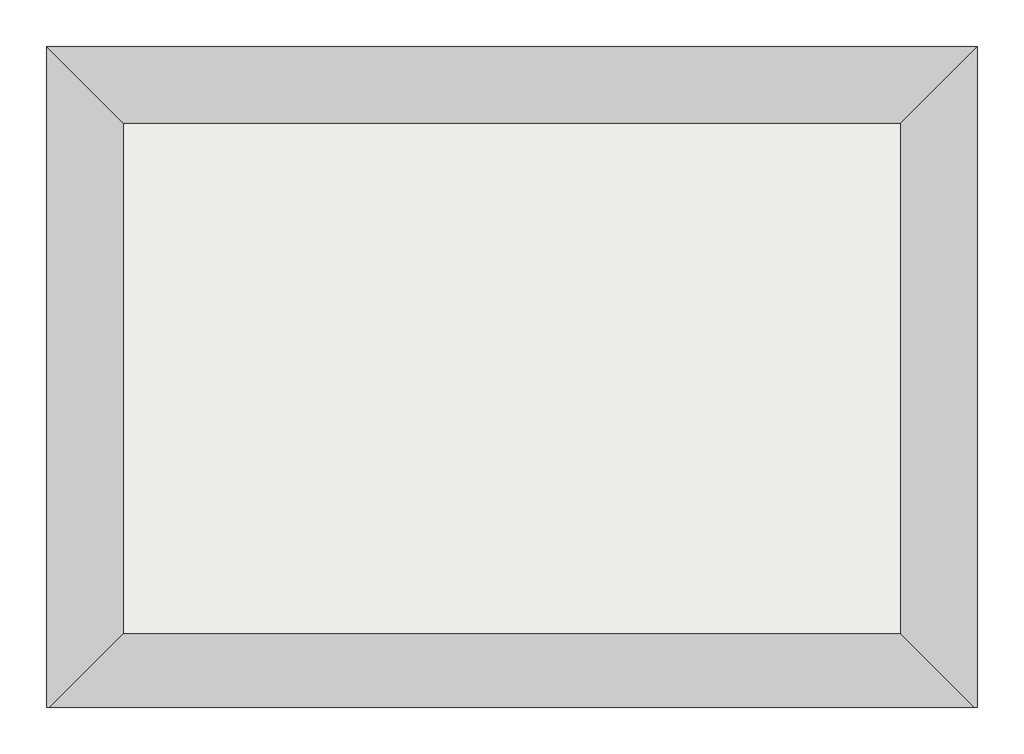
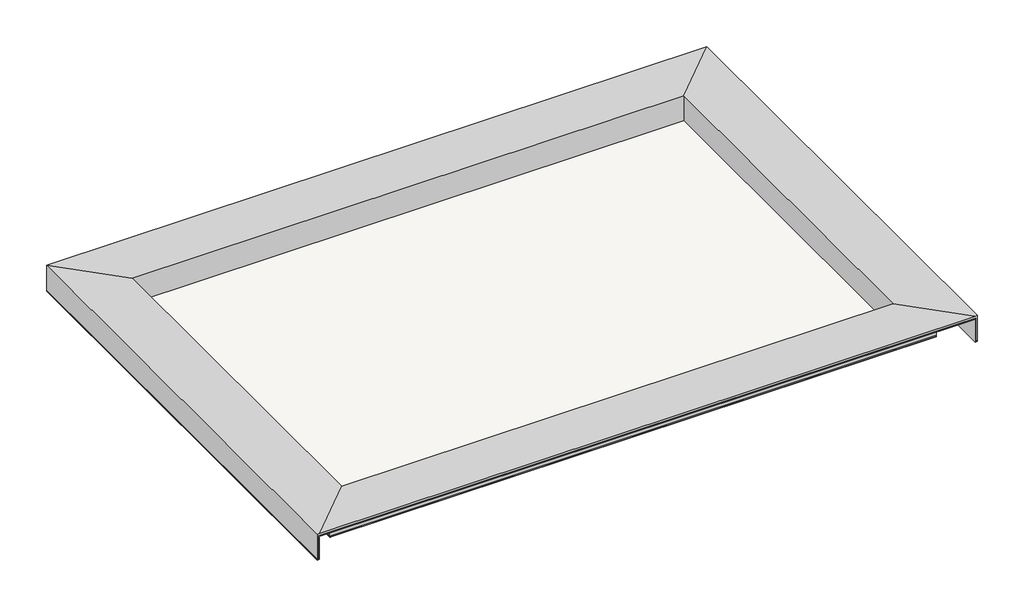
# One storey, incomplete: 2 proxies, 2 slabs.
"""IFC4 building model written with IfcOpenShell, lengths in millimetres."""

from ifc_helpers import new_model, si_unit, frame, origin, place, context, project, spatial, polyline, outline, extrude, faceted_brep, element, save

model = new_model("IFC4")

# Units and contexts
model_context = context("Model", 3, world=origin())
ifc_project = project(units=[si_unit("LENGTHUNIT", "METRE", prefix="MILLI")], contexts=[model_context])

# Site, building, storey
site = spatial("IfcSite", under=ifc_project)
building = spatial("IfcBuilding", under=site)
storey = spatial("IfcBuildingStorey", under=building, Name="20F(A)+2.8", Elevation=2800.0)

# Proxies
placement = place(None, origin())
element("IfcBuildingElementProxy", 1, Name="天花跌级（细木工板）", ObjectType="天花跌级（细木工板）", at=placement, inside=storey, context=model_context, shape_type="Brep", body=[
    faceted_brep([(12101.0015272, 1200.9923684, 3011.0), (12101.0015272, 1200.9923684, 2811.0), (12101.0015272, -2659.8975825, 2811.0), (12101.0015272, -2659.8975825, 3011.0), (12110.0015272, 1209.9923684, 2811.0), (12110.0015272, -2659.8975825, 2811.0), (12110.0015272, 1209.9923684, 3029.0), (12110.0015272, -2659.8975825, 3029.0), (11661.0015272, 760.9923684, 3029.0), (11661.0015272, -2231.00763, 3029.0), (12089.8914797, -2659.8975825, 3029.0), (11661.0015272, -2231.00763, 2811.0), (11661.0015272, 760.9923684, 2811.0), (11879.0015272, -2449.00763, 2811.0), (11879.0015272, 978.9923684, 2811.0), (11879.0015272, -2449.00763, 2860.0), (11879.0015272, 978.9923684, 2860.0), (11861.0015272, -2431.00763, 2860.0), (11861.0015272, 960.9923684, 2860.0), (11861.0015272, -2431.00763, 2829.0), (11861.0015272, 960.9923684, 2829.0), (11679.0015272, -2249.00763, 2829.0), (11679.0015272, 778.9923684, 2829.0), (11679.0015272, -2249.00763, 3011.0), (11679.0015272, 778.9923684, 3011.0), (12089.8914797, -2659.8975825, 3011.0), (7109.0000014, -2231.00763, 3029.0), (6680.1100489, -2659.8975825, 3029.0), (7109.0000014, -2231.00763, 2811.0), (6891.0000014, -2449.00763, 2811.0), (6891.0000014, -2449.00763, 2860.0), (6909.0000014, -2431.00763, 2860.0), (6909.0000014, -2431.00763, 2829.0), (7091.0000014, -2249.00763, 2829.0), (7091.0000014, -2249.00763, 3011.0), (6680.1100489, -2659.8975825, 3011.0), (6669.0000014, 1200.9923684, 3011.0), (6669.0000014, 1200.9923684, 2811.0), (6660.0000014, 1209.9923684, 2811.0), (6660.0000014, 1209.9923684, 3029.0), (7109.0000014, 760.9923684, 3029.0), (7109.0000014, 760.9923684, 2811.0), (6891.0000014, 978.9923684, 2811.0), (6891.0000014, 978.9923684, 2860.0), (6909.0000014, 960.9923684, 2860.0), (6909.0000014, 960.9923684, 2829.0), (7091.0000014, 778.9923684, 2829.0), (7091.0000014, 778.9923684, 3011.0), (6669.0000014, -2659.8975825, 3011.0), (6669.0000014, -2659.8975825, 2811.0), (6660.0000014, -2659.8975825, 2811.0), (6660.0000014, -2659.8975825, 3029.0)], [[[0, 1, 2, 3]], [[1, 4, 5, 2]], [[4, 6, 7, 5]], [[8, 9, 10, 7, 6]], [[11, 9, 8, 12]], [[13, 11, 12, 14]], [[15, 13, 14, 16]], [[17, 15, 16, 18]], [[19, 17, 18, 20]], [[21, 19, 20, 22]], [[23, 21, 22, 24]], [[23, 24, 0, 3, 25]], [[9, 26, 27, 10]], [[9, 11, 28, 26]], [[11, 13, 29, 28]], [[13, 15, 30, 29]], [[15, 17, 31, 30]], [[17, 19, 32, 31]], [[19, 21, 33, 32]], [[21, 23, 34, 33]], [[34, 23, 25, 35]], [[1, 0, 36, 37]], [[4, 1, 37, 38]], [[6, 4, 38, 39]], [[8, 6, 39, 40]], [[12, 8, 40, 41]], [[14, 12, 41, 42]], [[16, 14, 42, 43]], [[18, 16, 43, 44]], [[20, 18, 44, 45]], [[22, 20, 45, 46]], [[24, 22, 46, 47]], [[0, 24, 47, 36]], [[37, 36, 48, 49]], [[38, 37, 49, 50]], [[39, 38, 50, 51]], [[40, 39, 51, 27, 26]], [[26, 28, 41, 40]], [[28, 29, 42, 41]], [[29, 30, 43, 42]], [[30, 31, 44, 43]], [[31, 32, 45, 44]], [[32, 33, 46, 45]], [[33, 34, 47, 46]], [[36, 47, 34, 35, 48]], [[3, 2, 5, 7, 10, 27, 51, 50, 49, 48, 35, 25]]]),
])
element("IfcBuildingElementProxy", 2, Name="天花跌级（石膏板）", ObjectType="天花跌级（石膏板）", at=placement, inside=storey, context=model_context, shape_type="Brep", body=[
    faceted_brep([(12092.0015272, 1191.9923684, 3002.0), (12092.0015272, 1191.9923684, 2802.0), (12092.0015272, -2659.8975825, 2802.0), (12092.0015272, -2659.8975825, 3002.0), (12110.0015272, 1209.9923684, 2802.0), (12110.0015272, -2659.8975825, 2802.0), (12110.0015272, 1209.9923684, 2811.0), (12110.0015272, -2659.8975825, 2811.0), (12101.0015272, 1200.9923684, 2811.0), (12101.0015272, -2659.8975825, 2811.0), (12101.0015272, 1200.9923684, 3011.0), (12101.0015272, -2659.8975825, 3011.0), (11679.0015272, 778.9923684, 3011.0), (11679.0015272, -2249.00763, 3011.0), (12089.8914797, -2659.8975825, 3011.0), (11679.0015272, -2249.00763, 2829.0), (11679.0015272, 778.9923684, 2829.0), (11688.0015272, -2258.00763, 2829.0), (11688.0015272, 787.9923684, 2829.0), (11688.0015272, -2258.00763, 3002.0), (11688.0015272, 787.9923684, 3002.0), (12089.8914797, -2659.8975825, 3002.0), (7091.0000014, -2249.00763, 3011.0), (6680.1100489, -2659.8975825, 3011.0), (7091.0000014, -2249.00763, 2829.0), (7082.0000014, -2258.00763, 2829.0), (7082.0000014, -2258.00763, 3002.0), (6680.1100489, -2659.8975825, 3002.0), (6678.0000014, 1191.9923684, 3002.0), (6678.0000014, 1191.9923684, 2802.0), (6660.0000014, 1209.9923684, 2802.0), (6660.0000014, 1209.9923684, 2811.0), (6669.0000014, 1200.9923684, 2811.0), (6669.0000014, 1200.9923684, 3011.0), (7091.0000014, 778.9923684, 3011.0), (7091.0000014, 778.9923684, 2829.0), (7082.0000014, 787.9923684, 2829.0), (7082.0000014, 787.9923684, 3002.0), (6678.0000014, -2659.8975825, 3002.0), (6678.0000014, -2659.8975825, 2802.0), (6660.0000014, -2659.8975825, 2802.0), (6660.0000014, -2659.8975825, 2811.0), (6669.0000014, -2659.8975825, 2811.0), (6669.0000014, -2659.8975825, 3011.0)], [[[0, 1, 2, 3]], [[1, 4, 5, 2]], [[4, 6, 7, 5]], [[6, 8, 9, 7]], [[8, 10, 11, 9]], [[12, 13, 14, 11, 10]], [[15, 13, 12, 16]], [[17, 15, 16, 18]], [[19, 17, 18, 20]], [[19, 20, 0, 3, 21]], [[13, 22, 23, 14]], [[13, 15, 24, 22]], [[15, 17, 25, 24]], [[17, 19, 26, 25]], [[26, 19, 21, 27]], [[1, 0, 28, 29]], [[4, 1, 29, 30]], [[6, 4, 30, 31]], [[8, 6, 31, 32]], [[10, 8, 32, 33]], [[12, 10, 33, 34]], [[16, 12, 34, 35]], [[18, 16, 35, 36]], [[20, 18, 36, 37]], [[0, 20, 37, 28]], [[29, 28, 38, 39]], [[30, 29, 39, 40]], [[31, 30, 40, 41]], [[32, 31, 41, 42]], [[33, 32, 42, 43]], [[34, 33, 43, 23, 22]], [[22, 24, 35, 34]], [[24, 25, 36, 35]], [[25, 26, 37, 36]], [[28, 37, 26, 27, 38]], [[3, 2, 5, 7, 9, 11, 14, 23, 43, 42, 41, 40, 39, 38, 27, 21]]]),
    faceted_brep([(11879.0015272, -2449.00763, 2811.0), (11879.0015272, -2449.00763, 2860.0), (11879.0015272, 978.9923684, 2860.0), (11879.0015272, 978.9923684, 2811.0), (11888.0015272, -2458.00763, 2811.0), (11888.0015272, 987.9923684, 2811.0), (11888.0015272, -2458.00763, 2860.0), (11888.0015272, 987.9923684, 2860.0), (6891.0000014, -2449.00763, 2811.0), (6891.0000014, -2449.00763, 2860.0), (6882.0000014, -2458.00763, 2811.0), (6882.0000014, -2458.00763, 2860.0), (6891.0000014, 978.9923684, 2860.0), (6891.0000014, 978.9923684, 2811.0), (6882.0000014, 987.9923684, 2811.0), (6882.0000014, 987.9923684, 2860.0)], [[[0, 1, 2, 3]], [[4, 0, 3, 5]], [[6, 4, 5, 7]], [[1, 6, 7, 2]], [[1, 0, 8, 9]], [[0, 4, 10, 8]], [[4, 6, 11, 10]], [[6, 1, 9, 11]], [[3, 2, 12, 13]], [[5, 3, 13, 14]], [[7, 5, 14, 15]], [[2, 7, 15, 12]], [[9, 8, 13, 12]], [[8, 10, 14, 13]], [[10, 11, 15, 14]], [[11, 9, 12, 15]]]),
])

# Slabs
element("IfcSlab", 3, ObjectType="天花板-石膏板-9.5mm", at=placement, inside=storey, context=model_context, shape_type="SweptSolid", body=[
    extrude(outline(polyline([(11888.0015272, 987.9923684), (11888.0015272, -2458.00763), (6882.0000014, -2458.00763), (6882.0000014, 987.9923684), (11888.0015272, 987.9923684)])), frame((0.0, 0.0, 2802.0), z_axis=(0.0, 0.0, 1.0), x_axis=(1.0, 0.0, 0.0)), (0.0, 0.0, 1.0), 9.0),
])
element("IfcSlab", 4, ObjectType="天花板-乳胶漆-2mm", at=placement, inside=storey, context=model_context, shape_type="SweptSolid", body=[
    extrude(outline(polyline([(11888.0015272, 987.9923684), (11888.0015272, -2458.00763), (6882.0000014, -2458.00763), (6882.0000014, 987.9923684), (11888.0015272, 987.9923684)])), frame((0.0, 0.0, 2800.0), z_axis=(0.0, 0.0, 1.0), x_axis=(1.0, 0.0, 0.0)), (0.0, 0.0, 1.0), 2.0),
])

save(model, "model.ifc")
